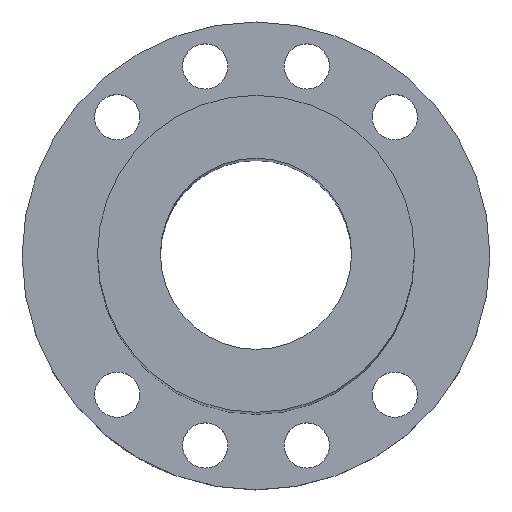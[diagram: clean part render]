
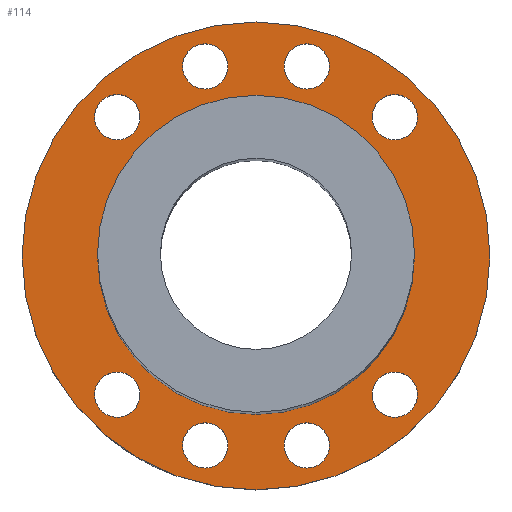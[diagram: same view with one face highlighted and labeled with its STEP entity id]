
A CAD part, top view. The second image highlights one B-rep face of the part: STEP entity #114.
In plain terms, the highlighted planar face has unit normal (0, 0, 1).
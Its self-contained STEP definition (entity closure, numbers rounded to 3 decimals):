
#99=PLANE('',#401);
#114=ADVANCED_FACE('',(#169,#170,#171,#172,#173,#174,#175,#176,#177,#178),
#99,.T.);
#169=FACE_BOUND('',#221,.T.);
#170=FACE_BOUND('',#222,.T.);
#171=FACE_BOUND('',#223,.T.);
#172=FACE_BOUND('',#224,.T.);
#173=FACE_BOUND('',#225,.T.);
#174=FACE_BOUND('',#226,.T.);
#175=FACE_BOUND('',#227,.T.);
#176=FACE_BOUND('',#228,.T.);
#177=FACE_BOUND('',#229,.T.);
#178=FACE_BOUND('',#230,.T.);
#221=EDGE_LOOP('',(#273));
#222=EDGE_LOOP('',(#274));
#223=EDGE_LOOP('',(#275));
#224=EDGE_LOOP('',(#276));
#225=EDGE_LOOP('',(#277));
#226=EDGE_LOOP('',(#278));
#227=EDGE_LOOP('',(#279));
#228=EDGE_LOOP('',(#280));
#229=EDGE_LOOP('',(#281));
#230=EDGE_LOOP('',(#282));
#273=ORIENTED_EDGE('',*,*,#316,.T.);
#274=ORIENTED_EDGE('',*,*,#337,.T.);
#275=ORIENTED_EDGE('',*,*,#336,.F.);
#276=ORIENTED_EDGE('',*,*,#335,.F.);
#277=ORIENTED_EDGE('',*,*,#334,.F.);
#278=ORIENTED_EDGE('',*,*,#333,.T.);
#279=ORIENTED_EDGE('',*,*,#332,.F.);
#280=ORIENTED_EDGE('',*,*,#331,.T.);
#281=ORIENTED_EDGE('',*,*,#318,.T.);
#282=ORIENTED_EDGE('',*,*,#338,.T.);
#290=VERTEX_POINT('',#495);
#292=VERTEX_POINT('',#557);
#305=VERTEX_POINT('',#644);
#306=VERTEX_POINT('',#647);
#307=VERTEX_POINT('',#650);
#308=VERTEX_POINT('',#653);
#309=VERTEX_POINT('',#656);
#310=VERTEX_POINT('',#659);
#311=VERTEX_POINT('',#662);
#312=VERTEX_POINT('',#665);
#316=EDGE_CURVE('',#290,#290,#342,.T.);
#318=EDGE_CURVE('',#292,#292,#343,.T.);
#331=EDGE_CURVE('',#305,#305,#355,.T.);
#332=EDGE_CURVE('',#306,#306,#356,.T.);
#333=EDGE_CURVE('',#307,#307,#357,.T.);
#334=EDGE_CURVE('',#308,#308,#358,.T.);
#335=EDGE_CURVE('',#309,#309,#359,.T.);
#336=EDGE_CURVE('',#310,#310,#360,.T.);
#337=EDGE_CURVE('',#311,#311,#361,.T.);
#338=EDGE_CURVE('',#312,#312,#362,.T.);
#342=CIRCLE('',#367,46.5);
#343=CIRCLE('',#369,31.5);
#355=CIRCLE('',#385,4.5);
#356=CIRCLE('',#387,4.5);
#357=CIRCLE('',#389,4.5);
#358=CIRCLE('',#391,4.5);
#359=CIRCLE('',#393,4.5);
#360=CIRCLE('',#395,4.5);
#361=CIRCLE('',#397,4.5);
#362=CIRCLE('',#399,4.5);
#367=AXIS2_PLACEMENT_3D('',#494,#411,#412);
#369=AXIS2_PLACEMENT_3D('',#556,#415,#416);
#385=AXIS2_PLACEMENT_3D('',#643,#447,#448);
#387=AXIS2_PLACEMENT_3D('',#646,#451,#452);
#389=AXIS2_PLACEMENT_3D('',#649,#455,#456);
#391=AXIS2_PLACEMENT_3D('',#652,#459,#460);
#393=AXIS2_PLACEMENT_3D('',#655,#463,#464);
#395=AXIS2_PLACEMENT_3D('',#658,#467,#468);
#397=AXIS2_PLACEMENT_3D('',#661,#471,#472);
#399=AXIS2_PLACEMENT_3D('',#664,#475,#476);
#401=AXIS2_PLACEMENT_3D('',#667,#479,#480);
#411=DIRECTION('',(0.,0.,1.));
#412=DIRECTION('',(1.,0.,0.));
#415=DIRECTION('',(0.,0.,-1.));
#416=DIRECTION('',(1.,0.,0.));
#447=DIRECTION('',(0.,0.,-1.));
#448=DIRECTION('',(-1.,0.,0.));
#451=DIRECTION('',(0.,0.,1.));
#452=DIRECTION('',(-1.,0.,0.));
#455=DIRECTION('',(0.,0.,-1.));
#456=DIRECTION('',(1.,0.,0.));
#459=DIRECTION('',(0.,0.,1.));
#460=DIRECTION('',(-1.,0.,0.));
#463=DIRECTION('',(0.,0.,1.));
#464=DIRECTION('',(1.,0.,0.));
#467=DIRECTION('',(0.,0.,1.));
#468=DIRECTION('',(1.,0.,0.));
#471=DIRECTION('',(0.,0.,-1.));
#472=DIRECTION('',(1.,0.,0.));
#475=DIRECTION('',(0.,0.,-1.));
#476=DIRECTION('',(-1.,0.,0.));
#479=DIRECTION('',(0.,0.,1.));
#480=DIRECTION('',(1.,0.,0.));
#494=CARTESIAN_POINT('',(0.,0.,14.));
#495=CARTESIAN_POINT('',(46.5,0.,14.));
#556=CARTESIAN_POINT('',(0.,0.,14.));
#557=CARTESIAN_POINT('',(31.5,0.,14.));
#643=CARTESIAN_POINT('',(10.094,37.671,14.));
#644=CARTESIAN_POINT('',(5.594,37.671,14.));
#646=CARTESIAN_POINT('',(27.577,-27.577,14.));
#647=CARTESIAN_POINT('',(23.077,-27.577,14.));
#649=CARTESIAN_POINT('',(-27.577,-27.577,14.));
#650=CARTESIAN_POINT('',(-23.077,-27.577,14.));
#652=CARTESIAN_POINT('',(10.094,-37.671,14.));
#653=CARTESIAN_POINT('',(5.594,-37.671,14.));
#655=CARTESIAN_POINT('',(-27.577,27.577,14.));
#656=CARTESIAN_POINT('',(-23.077,27.577,14.));
#658=CARTESIAN_POINT('',(-10.094,37.671,14.));
#659=CARTESIAN_POINT('',(-5.594,37.671,14.));
#661=CARTESIAN_POINT('',(-10.094,-37.671,14.));
#662=CARTESIAN_POINT('',(-5.594,-37.671,14.));
#664=CARTESIAN_POINT('',(27.577,27.577,14.));
#665=CARTESIAN_POINT('',(23.077,27.577,14.));
#667=CARTESIAN_POINT('',(-5.047,-18.836,14.));
